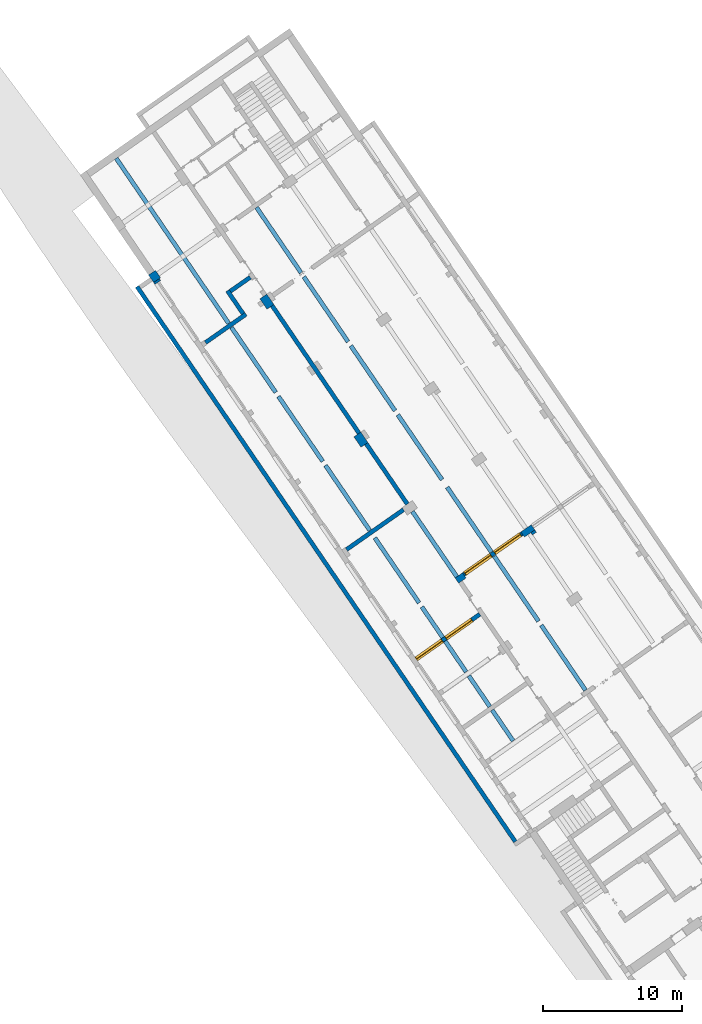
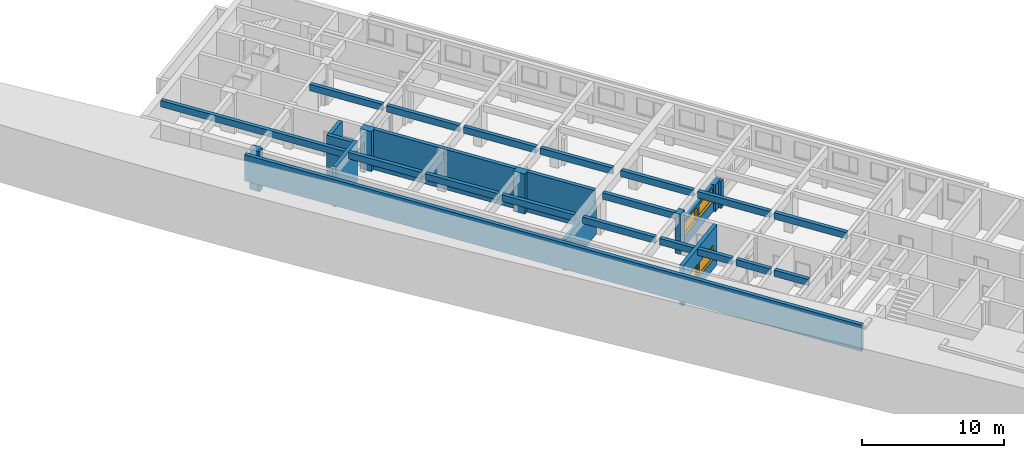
# One storey, part 61 of 112: 19 walls, 4 windows, 5 openings.
"""IFC2X3 building model written with IfcOpenShell, lengths in millimetres."""

from ifc_helpers import new_model, entity, si_unit, converted_unit, derived_unit, direction, frame, frame_2d, origin, place, context, subcontext, project, spatial, polyline, rectangle, outline, extrude, source, transform, mapped, material, material_list, layer, layer_set, layer_usage, type_object, type_shapes, element, fill, save


model = new_model("IFC2X3")

# Units and contexts
model_context = context("Model", 3, precision=0.01, world=origin(), true_north=direction((6.123031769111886e-17, 1.0)))
body_context = subcontext(model_context, "Body", "Model", "MODEL_VIEW")
ifc_project = project(units=[si_unit("LENGTHUNIT", "METRE", prefix="MILLI"), si_unit("AREAUNIT", "SQUARE_METRE"), si_unit("VOLUMEUNIT", "CUBIC_METRE"), converted_unit("PLANEANGLEUNIT", "DEGREE", entity("IfcRatioMeasure", 0.017453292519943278), si_unit("PLANEANGLEUNIT", "RADIAN"), dimensions=[0, 0, 0, 0, 0, 0, 0]), si_unit("MASSUNIT", "GRAM", prefix="KILO"), derived_unit("MASSDENSITYUNIT", [(si_unit("MASSUNIT", "GRAM", prefix="KILO"), 1), (si_unit("LENGTHUNIT", "METRE"), -3)]), derived_unit("MOMENTOFINERTIAUNIT", [(si_unit("LENGTHUNIT", "METRE"), 4)]), si_unit("TIMEUNIT", "SECOND"), si_unit("FREQUENCYUNIT", "HERTZ"), si_unit("THERMODYNAMICTEMPERATUREUNIT", "DEGREE_CELSIUS"), derived_unit("THERMALTRANSMITTANCEUNIT", [(si_unit("MASSUNIT", "GRAM", prefix="KILO"), 1), (si_unit("THERMODYNAMICTEMPERATUREUNIT", "KELVIN"), -1), (si_unit("TIMEUNIT", "SECOND"), -3)]), derived_unit("THERMALCONDUCTANCEUNIT", [(si_unit("MASSUNIT", "GRAM", prefix="KILO"), 1), (si_unit("LENGTHUNIT", "METRE"), 1), (si_unit("THERMODYNAMICTEMPERATUREUNIT", "KELVIN"), -1), (si_unit("TIMEUNIT", "SECOND"), -3)]), derived_unit("VOLUMETRICFLOWRATEUNIT", [(si_unit("LENGTHUNIT", "METRE"), 3), (si_unit("TIMEUNIT", "SECOND"), -1)]), derived_unit("MASSFLOWRATEUNIT", [(si_unit("MASSUNIT", "GRAM", prefix="KILO"), 1), (si_unit("TIMEUNIT", "SECOND"), -1)]), derived_unit("ROTATIONALFREQUENCYUNIT", [(si_unit("TIMEUNIT", "SECOND"), -1)]), si_unit("ELECTRICCURRENTUNIT", "AMPERE"), si_unit("ELECTRICVOLTAGEUNIT", "VOLT"), si_unit("POWERUNIT", "WATT"), converted_unit("FORCEUNIT", "KIP", entity("IfcRatioMeasure", 2.088543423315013e-05), si_unit("FORCEUNIT", "NEWTON"), dimensions=[1, 1, -2, 0, 0, 0, 0]), si_unit("ILLUMINANCEUNIT", "LUX"), si_unit("LUMINOUSFLUXUNIT", "LUMEN"), si_unit("LUMINOUSINTENSITYUNIT", "CANDELA"), derived_unit("USERDEFINED", [(si_unit("MASSUNIT", "GRAM", prefix="KILO"), -1), (si_unit("LENGTHUNIT", "METRE"), -2), (si_unit("TIMEUNIT", "SECOND"), 3), (si_unit("LUMINOUSFLUXUNIT", "LUMEN"), 1)]), derived_unit("USERDEFINED", [(si_unit("MASSUNIT", "GRAM", prefix="KILO"), 1), (si_unit("LENGTHUNIT", "METRE"), 3), (si_unit("TIMEUNIT", "SECOND"), -3), (si_unit("ELECTRICCURRENTUNIT", "AMPERE"), -2)]), derived_unit("USERDEFINED", [(si_unit("LENGTHUNIT", "METRE"), 2), (si_unit("TIMEUNIT", "SECOND"), -2)]), derived_unit("SOUNDPOWERUNIT", [(si_unit("MASSUNIT", "GRAM", prefix="KILO"), 1), (si_unit("LENGTHUNIT", "METRE"), 2), (si_unit("TIMEUNIT", "SECOND"), -3)]), derived_unit("SOUNDPRESSUREUNIT", [(si_unit("MASSUNIT", "GRAM", prefix="KILO"), 1), (si_unit("LENGTHUNIT", "METRE"), -1), (si_unit("TIMEUNIT", "SECOND"), -2)]), derived_unit("LINEARVELOCITYUNIT", [(si_unit("LENGTHUNIT", "METRE"), 1), (si_unit("TIMEUNIT", "SECOND"), -1)]), si_unit("PRESSUREUNIT", "PASCAL"), derived_unit("USERDEFINED", [(si_unit("LENGTHUNIT", "METRE"), -2), (si_unit("MASSUNIT", "GRAM", prefix="KILO"), 1), (si_unit("TIMEUNIT", "SECOND"), -2)]), derived_unit("LINEARFORCEUNIT", [(si_unit("MASSUNIT", "GRAM", prefix="KILO"), 1), (si_unit("LENGTHUNIT", "METRE"), 1), (si_unit("TIMEUNIT", "SECOND"), -2), (si_unit("LENGTHUNIT", "METRE"), -1)]), derived_unit("PLANARFORCEUNIT", [(si_unit("MASSUNIT", "GRAM", prefix="KILO"), 1), (si_unit("LENGTHUNIT", "METRE"), 1), (si_unit("TIMEUNIT", "SECOND"), -2), (si_unit("LENGTHUNIT", "METRE"), -2)]), derived_unit("SPECIFICHEATCAPACITYUNIT", [(si_unit("LENGTHUNIT", "METRE"), 2), (si_unit("TIMEUNIT", "SECOND"), -2), (si_unit("THERMODYNAMICTEMPERATUREUNIT", "KELVIN"), -1)]), derived_unit("VAPORPERMEABILITYUNIT", [(si_unit("TIMEUNIT", "SECOND"), 1), (si_unit("LENGTHUNIT", "METRE"), -1)]), derived_unit("DYNAMICVISCOSITYUNIT", [(si_unit("MASSUNIT", "GRAM", prefix="KILO"), 1), (si_unit("LENGTHUNIT", "METRE"), -1), (si_unit("TIMEUNIT", "SECOND"), -1)]), derived_unit("THERMALEXPANSIONCOEFFICIENTUNIT", [(si_unit("THERMODYNAMICTEMPERATUREUNIT", "KELVIN"), -1)])], contexts=[model_context])

# Site, building, storey
site_placement = place(None, frame((0.0, 0.0, 0.0), z_axis=(0.0, 0.0, 1.0), x_axis=(0.8191520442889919, 0.5735764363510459, 0.0)))
site = spatial("IfcSite", under=ifc_project, at=site_placement, Name="Default", CompositionType="ELEMENT")
building_placement = place(site_placement, origin())
building = spatial("IfcBuilding", under=site, at=building_placement, CompositionType="ELEMENT")
storey_placement = place(building_placement, frame((0.0, 0.0, -3600.0)))
storey = spatial("IfcBuildingStorey", under=building, at=storey_placement, Name="0.UG -3.60", CompositionType="ELEMENT", Elevation=-3600.0000000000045)

# Wall, openings, windows
ifc_material_1 = material(Name="Analytical Wall Surface_CJC")
ifc_layer_1 = layer(ifc_material_1, 300.0)
ifc_layer_set_1 = layer_set([ifc_layer_1], Name="Basic Wall:Wand_Innen_30")
ifc_layer_usage_1 = layer_usage(ifc_layer_set_1, "AXIS2", "NEGATIVE", 150.0)
wall_type_1 = type_object("IfcWallType", Name="Basic Wall:Wand_Innen_30", PredefinedType="STANDARD", material=ifc_layer_set_1)
wall_1_placement = place(storey_placement, frame((-216272.42140855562, 133696.3589143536, 0.0)))
wall_1 = element("IfcWallStandardCase", 1, at=wall_1_placement, inside=storey, type_object=wall_type_1, material=ifc_layer_usage_1, Name="Basic Wall:Wand_Innen_30", ObjectType="Basic Wall:Wand_Innen_30", context=body_context, shape_type="SweptSolid", body=[
    extrude(rectangle(XDim=5123.505691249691, YDim=300.0000000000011, at=frame_2d((2561.7528456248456, 1.9042545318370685e-12), x_axis=(-1.0, 0.0))), origin(), (0.0, 0.0, 1.0), 2300.0),
])
opening_1_placement = place(wall_1_placement, frame((2705.9354078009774, -150.0, 900.0)))
opening_1 = element("IfcOpeningElement", 2, at=opening_1_placement, cuts=wall_1, Name="M_Instance-Window-Fixed:508x270:1", ObjectType="Opening", context=body_context, shape_type="SweptSolid", body=[
    extrude(rectangle(XDim=1200.0, YDim=2300.0, at=frame_2d((600.0, 1150.0), x_axis=(-1.0, 0.0))), frame((0.0, 0.0, 0.0), z_axis=(0.0, 1.0, 0.0), x_axis=(0.0, 0.0, 1.0)), (0.0, 0.0, 1.0), 300.0),
])
opening_2_placement = place(wall_1_placement, frame((105.93540780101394, -150.0, 900.0)))
opening_2 = element("IfcOpeningElement", 3, at=opening_2_placement, cuts=wall_1, Name="M_Instance-Window-Fixed:508x270:1", ObjectType="Opening", context=body_context, shape_type="SweptSolid", body=[
    extrude(rectangle(XDim=1200.0, YDim=2300.0, at=frame_2d((600.0, 1150.0), x_axis=(-1.0, 0.0))), frame((0.0, 0.0, 0.0), z_axis=(0.0, 1.0, 0.0), x_axis=(0.0, 0.0, 1.0)), (0.0, 0.0, 1.0), 300.0),
])
ifc_material_2 = material(Name="Sash")
ifc_material_3 = material(Name="Glass")
ifc_material_4 = material(Name="<Unnamed>")
ifc_material_list = material_list([ifc_material_2, ifc_material_3, ifc_material_4])
window_style = type_object("IfcWindowStyle", Name="M_Instance-Window-Fixed:508x270", ConstructionType="NOTDEFINED", OperationType="NOTDEFINED", ParameterTakesPrecedence=False, Sizeable=False, material=ifc_material_list)
shared_shape = source(origin(), body_context, "Body", "SweptSolid", [
    extrude(rectangle(XDim=25.400000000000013, YDim=2300.0000000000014, at=frame_2d((1.687538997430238e-14, 0.0), x_axis=(1.0, 0.0))), frame((1150.0, 312.70000000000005, 0.0), z_axis=(0.0, 0.0, 1.0), x_axis=(0.0, -1.0, 0.0)), (0.0, 0.0, 1.0), 19.049999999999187),
    extrude(rectangle(XDim=12.699999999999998, YDim=2172.9999999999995, at=frame_2d((-4.440892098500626e-15, 0.0), x_axis=(1.0, 0.0))), frame((1150.0, 177.77500000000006, 63.49999999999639), z_axis=(0.0, 0.0, 1.0), x_axis=(0.0, 1.0, 0.0)), (0.0, 0.0, 1.0), 1073.0000000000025),
    extrude(outline(polyline([(-1130.9499999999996, -580.9500000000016), (1130.9499999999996, -580.9500000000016), (1130.9499999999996, 580.9500000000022), (-1130.9499999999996, 580.9500000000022), (-1130.9499999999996, -580.9500000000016)]), holes=[polyline([(-1086.4999999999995, -536.5000000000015), (-1086.4999999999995, 536.5000000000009), (1086.5, 536.5000000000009), (1086.5, -536.5000000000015), (-1086.4999999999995, -536.5000000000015)])]), frame((1150.0, 155.55000000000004, 600.0), z_axis=(0.0, 1.0, 0.0), x_axis=(1.0, 0.0, 0.0)), (0.0, 0.0, 1.0), 44.449999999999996),
    extrude(outline(polyline([(-1150.0, -600.0), (1150.0, -600.0), (1150.0, 600.0), (-1150.0, 600.0), (-1150.0, -600.0)]), holes=[polyline([(-1118.2500000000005, -568.2499999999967), (-1118.2500000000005, 568.2500000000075), (1118.249999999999, 568.2500000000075), (1118.249999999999, -568.2499999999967), (-1118.2500000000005, -568.2499999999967)])]), frame((1150.0, 0.0, 600.0), z_axis=(0.0, 1.0, 0.0), x_axis=(1.0, 0.0, 0.0)), (0.0, 0.0, 1.0), 155.55000000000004),
    extrude(outline(polyline([(-600.0, -1150.0), (600.0, -1150.0), (600.0, 1150.0), (-600.0, 1150.0), (-600.0, -1150.0)]), holes=[polyline([(-580.9499999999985, -1130.9499999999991), (-580.9499999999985, 1130.9500000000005), (580.9500000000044, 1130.9500000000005), (580.9500000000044, -1130.9499999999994), (-580.9499999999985, -1130.9499999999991)])]), frame((1150.0, 155.55000000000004, 600.0), z_axis=(0.0, 1.0, 0.0), x_axis=(0.0, 0.0, -1.0)), (0.0, 0.0, 1.0), 144.45),
])
type_shapes(window_style, [shared_shape])
window_1_placement = place(opening_1_placement, origin())
window_1 = element("IfcWindow", 4, at=window_1_placement, inside=storey, type_object=window_style, material=ifc_material_list, Name="M_Instance-Window-Fixed:508x270", ObjectType="M_Instance-Window-Fixed:508x270", OverallHeight=1200.0, OverallWidth=2299.999999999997, context=body_context, shape_type="MappedRepresentation", body=[
    mapped(shared_shape, transform((0.0, 0.0, 0.0), scale=1.0)),
])
fill(opening_1, window_1)
window_2_placement = place(opening_2_placement, origin())
window_2 = element("IfcWindow", 5, at=window_2_placement, inside=storey, type_object=window_style, material=ifc_material_list, Name="M_Instance-Window-Fixed:508x270", ObjectType="M_Instance-Window-Fixed:508x270", OverallHeight=1200.0, OverallWidth=2299.999999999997, context=body_context, shape_type="MappedRepresentation", body=[
    mapped(shared_shape, transform((0.0, 0.0, 0.0), scale=1.0)),
])
fill(opening_2, window_2)

# Walls
ifc_layer_usage_2 = layer_usage(ifc_layer_set_1, "AXIS2", "POSITIVE", -150.0)
wall_2_placement = place(storey_placement, frame((-216686.23628759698, 140169.44947620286, 0.0), z_axis=(0.0, 0.0, 1.0), x_axis=(0.012729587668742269, 0.9999189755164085, 0.0)))
element("IfcWallStandardCase", 6, at=wall_2_placement, inside=storey, type_object=wall_type_1, material=ifc_layer_usage_2, Name="Basic Wall:Wand_Innen_30", ObjectType="Basic Wall:Wand_Innen_30", context=body_context, shape_type="SweptSolid", body=[
    extrude(outline(polyline([(5254.182672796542, -150.0), (5254.182672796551, 150.0), (0.0, 150.0), (3.819185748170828, -150.0), (5254.182672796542, -150.0)])), origin(), (0.0, 0.0, 1.0), 3450.0),
])
wall_3_placement = place(storey_placement, frame((-216608.01906584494, 146323.20313622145, 0.0), z_axis=(0.0, 0.0, 1.0), x_axis=(0.012740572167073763, 0.9999188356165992, 0.0)))
element("IfcWallStandardCase", 7, at=wall_3_placement, inside=storey, type_object=wall_type_1, material=ifc_layer_usage_2, Name="Basic Wall:Wand_Innen_30", ObjectType="Basic Wall:Wand_Innen_30", context=body_context, shape_type="SweptSolid", body=[
    extrude(rectangle(XDim=11100.965209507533, YDim=300.0000000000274, at=frame_2d((5550.482604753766, -3.140598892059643e-12), x_axis=(-1.0, 0.0))), origin(), (0.0, 0.0, 1.0), 3450.000000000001),
])
wall_4_placement = place(storey_placement, frame((-221907.86051160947, 157996.35891435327, 0.0)))
element("IfcWallStandardCase", 8, at=wall_4_placement, inside=storey, type_object=wall_type_1, material=ifc_layer_usage_1, Name="Basic Wall:Wand_Innen_30", ObjectType="Basic Wall:Wand_Innen_30", context=body_context, shape_type="SweptSolid", body=[
    extrude(outline(polyline([(3546.5082670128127, -150.0), (3550.3274527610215, 150.0), (3250.3031434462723, 150.0), (0.0, 150.0), (0.0, -150.0), (3546.5082670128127, -150.0)])), origin(), (0.0, 0.0, 1.0), 3450.0),
])
wall_5_placement = place(storey_placement, frame((-218507.56952183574, 158144.44947620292, 0.0), z_axis=(0.0, 0.0, 1.0), x_axis=(0.012729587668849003, 0.9999189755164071, 0.0)))
element("IfcWallStandardCase", 9, at=wall_5_placement, inside=storey, type_object=wall_type_1, material=ifc_layer_usage_1, Name="Basic Wall:Wand_Innen_30", ObjectType="Basic Wall:Wand_Innen_30", context=body_context, shape_type="SweptSolid", body=[
    extrude(outline(polyline([(2003.9812478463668, -150.0), (2000.162062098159, 150.0), (0.0, 150.0), (3.8191857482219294, -150.0), (1703.9569385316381, -150.0), (2003.9812478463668, -150.0)])), origin(), (0.0, 0.0, 1.0), 3450.000000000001),
])
wall_6_placement = place(storey_placement, frame((-218335.89100627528, 159996.35891435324, 0.0)))
element("IfcWallStandardCase", 10, at=wall_6_placement, inside=storey, type_object=wall_type_1, material=ifc_layer_usage_1, Name="Basic Wall:Wand_Innen_30", ObjectType="Basic Wall:Wand_Innen_30", context=body_context, shape_type="SweptSolid", body=[
    extrude(outline(polyline([(1750.1418043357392, -150.0), (1753.9609900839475, 150.0), (3.8191857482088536, 150.0), (0.0, -150.0), (1750.1418043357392, -150.0)])), origin(), (0.0, 0.0, 1.0), 3450.0),
])

# Wall, openings, windows
wall_7_placement = place(storey_placement, frame((-216954.93715759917, 130696.35891435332, 0.0), z_axis=(0.0, 0.0, 1.0), x_axis=(-1.0, 0.0, 0.0)))
wall_7 = element("IfcWallStandardCase", 11, at=wall_7_placement, inside=storey, type_object=wall_type_1, material=ifc_layer_usage_1, Name="Basic Wall:Wand_Innen_30", ObjectType="Basic Wall:Wand_Innen_30", context=body_context, shape_type="SweptSolid", body=[
    extrude(outline(polyline([(5600.392310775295, -150.0), (5604.211496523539, 150.0), (3.819185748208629, 150.0), (0.0, -150.0), (5600.392310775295, -150.0)])), origin(), (0.0, 0.0, 1.0), 3450.000000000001),
])
opening_3_placement = place(wall_7_placement, frame((3300.392310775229, -150.0, 900.0)))
opening_3 = element("IfcOpeningElement", 12, at=opening_3_placement, cuts=wall_7, Name="M_Instance-Window-Fixed:508x270:1", ObjectType="Opening", context=body_context, shape_type="SweptSolid", body=[
    extrude(rectangle(XDim=1200.0, YDim=2300.0, at=frame_2d((600.0, 1150.0), x_axis=(-1.0, 0.0))), frame((0.0, 0.0, 0.0), z_axis=(0.0, 1.0, 0.0), x_axis=(0.0, 0.0, 1.0)), (0.0, 0.0, 1.0), 300.0),
])
opening_4_placement = place(wall_7_placement, frame((700.4300532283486, -150.0, 900.0)))
opening_4 = element("IfcOpeningElement", 13, at=opening_4_placement, cuts=wall_7, Name="M_Instance-Window-Fixed:508x270:1", ObjectType="Opening", context=body_context, shape_type="SweptSolid", body=[
    extrude(rectangle(XDim=1200.0, YDim=2300.0, at=frame_2d((600.0, 1150.0), x_axis=(-1.0, 0.0))), frame((0.0, 0.0, 0.0), z_axis=(0.0, 1.0, 0.0), x_axis=(0.0, 0.0, 1.0)), (0.0, 0.0, 1.0), 300.0),
])
window_3_placement = place(opening_4_placement, origin())
window_3 = element("IfcWindow", 14, at=window_3_placement, inside=storey, type_object=window_style, material=ifc_material_list, Name="M_Instance-Window-Fixed:508x270", ObjectType="M_Instance-Window-Fixed:508x270", OverallHeight=1200.0, OverallWidth=2299.999999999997, context=body_context, shape_type="MappedRepresentation", body=[
    mapped(shared_shape, transform((0.0, 0.0, 0.0), scale=1.0)),
])
fill(opening_4, window_3)
window_4_placement = place(opening_3_placement, origin())
window_4 = element("IfcWindow", 15, at=window_4_placement, inside=storey, type_object=window_style, material=ifc_material_list, Name="M_Instance-Window-Fixed:508x270", ObjectType="M_Instance-Window-Fixed:508x270", OverallHeight=1200.0, OverallWidth=2299.999999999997, context=body_context, shape_type="MappedRepresentation", body=[
    mapped(shared_shape, transform((0.0, 0.0, 0.0), scale=1.0)),
])
fill(opening_3, window_4)

# Walls
wall_8_placement = place(storey_placement, frame((-217144.45041774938, 139996.35891435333, 0.0), z_axis=(0.0, 0.0, 1.0), x_axis=(-1.0, 0.0, 0.0)))
element("IfcWallStandardCase", 16, at=wall_8_placement, inside=storey, type_object=wall_type_1, material=ifc_layer_usage_2, Name="Basic Wall:Wand_Innen_30", ObjectType="Basic Wall:Wand_Innen_30", context=body_context, shape_type="SweptSolid", body=[
    extrude(rectangle(XDim=4996.379121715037, YDim=300.00000000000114, at=frame_2d((2498.1895608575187, 2.7853275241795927e-12), x_axis=(-1.0, 0.0))), origin(), (0.0, 0.0, 1.0), 2700.0),
])
wall_9_placement = place(storey_placement, frame((-220215.84120636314, 121869.44947620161, 2900.0), z_axis=(0.0, 0.0, 1.0), x_axis=(0.012729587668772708, 0.9999189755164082, 0.0)))
element("IfcWall", 17, at=wall_9_placement, inside=storey, type_object=wall_type_1, Name="Basic Wall:Wand_Innen_30", ObjectType="Basic Wall:Wand_Innen_30", context=body_context, shape_type="SweptSolid", body=[
    extrude(outline(polyline([(-1335.6987861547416, -150.0), (1339.5179719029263, -150.0), (1335.6987861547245, 150.0), (-1339.5179719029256, 150.0), (-1335.6987861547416, -150.0)])), frame((1339.517971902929, 0.0, 0.0), z_axis=(0.0, 0.0, 1.0), x_axis=(-1.0, 0.0, 0.0)), (0.0, 0.0, 1.0), 550.0),
    extrude(outline(polyline([(-6590.291203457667, -150.0), (-2689.975182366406, -150.0), (-2339.9468214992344, -150.0), (1760.3854058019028, -150.0), (2110.4137666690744, -150.0), (7760.871592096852, -150.0), (7757.052406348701, 150.0), (2106.5945809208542, 150.0), (1756.5662200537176, 150.0), (-2343.76600724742, 150.0), (-2693.7943681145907, 150.0), (-6594.110389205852, 150.0), (-6590.291203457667, -150.0)])), frame((44063.813019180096, 0.0, 0.0), z_axis=(0.0, 0.0, 1.0), x_axis=(-1.0, 0.0, 0.0)), (0.0, 0.0, 1.0), 550.0),
    extrude(outline(polyline([(-1335.698786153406, -150.0), (1339.5179719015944, -150.0), (1335.698786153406, 150.0), (-1339.5179719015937, 150.0), (-1335.698786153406, -150.0)])), frame((4314.759039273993, 0.0, 0.0)), (0.0, 0.0, 1.0), 550.0),
    extrude(outline(polyline([(-2823.3193198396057, -150.0), (2827.1385055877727, -150.0), (2823.319319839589, 150.0), (-2827.13850558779, 150.0), (-2823.3193198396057, -150.0)])), frame((27129.107560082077, 0.0, 0.0)), (0.0, 0.0, 1.0), 549.9999999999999),
    extrude(outline(polyline([(-2823.319319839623, -150.0), (2827.1385055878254, -150.0), (2823.31931983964, 150.0), (-2827.138505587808, 150.0), (-2823.319319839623, -150.0)])), frame((21128.621373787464, 0.0, 0.0), z_axis=(0.0, 0.0, 1.0), x_axis=(-1.0, 0.0, 0.0)), (0.0, 0.0, 1.0), 550.0),
    extrude(outline(polyline([(-2823.319319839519, -150.0), (2827.1385055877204, -150.0), (2823.3193198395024, 150.0), (-2827.138505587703, 150.0), (-2823.319319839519, -150.0)])), frame((33129.593746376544, 0.0, 0.0)), (0.0, 0.0, 1.0), 549.9999999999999),
    extrude(outline(polyline([(-1335.6987861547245, -150.0), (1339.5179719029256, -150.0), (1335.6987861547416, 150.0), (-1339.517971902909, 150.0), (-1335.6987861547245, -150.0)])), frame((7340.004158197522, 0.0, 0.0), z_axis=(0.0, 0.0, 1.0), x_axis=(-1.0, 0.0, 0.0)), (0.0, 0.0, 1.0), 550.0),
    extrude(outline(polyline([(-2823.31931984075, -150.0), (2827.138505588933, -150.0), (2823.31931984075, 150.0), (-2827.1385055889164, 150.0), (-2823.31931984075, -150.0)])), frame((14828.11087817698, 0.0, 0.0)), (0.0, 0.0, 1.0), 550.0),
    extrude(outline(polyline([(-1335.6987861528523, -150.0), (1339.5179719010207, -150.0), (1335.6987861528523, 150.0), (-1339.517971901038, 150.0), (-1335.6987861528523, -150.0)])), frame((10315.245225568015, 0.0, 0.0)), (0.0, 0.0, 1.0), 550.0),
])
wall_10_placement = place(storey_placement, frame((-213868.94731887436, 121869.44947620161, 2900.0), z_axis=(0.0, 0.0, 1.0), x_axis=(0.012729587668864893, 0.999918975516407, 0.0)))
element("IfcWall", 18, at=wall_10_placement, inside=storey, type_object=wall_type_1, Name="Basic Wall:Wand_Innen_30", ObjectType="Basic Wall:Wand_Innen_30", context=body_context, shape_type="SweptSolid", body=[
    extrude(outline(polyline([(-2823.319319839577, -150.0), (2827.1385055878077, -150.0), (2823.3193198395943, 150.0), (-2827.1385055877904, 150.0), (-2823.319319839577, -150.0)])), frame((2827.138505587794, 0.0, 0.0)), (0.0, 0.0, 1.0), 550.0),
    extrude(outline(polyline([(-2835.820332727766, -150.0), (2839.6395184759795, -150.0), (2835.820332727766, 150.0), (-2839.639518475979, 150.0), (-2835.820332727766, -150.0)])), frame((39142.580945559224, 0.0, 0.0), z_axis=(0.0, 0.0, 1.0), x_axis=(-1.0, 0.0, 0.0)), (0.0, 0.0, 1.0), 550.0),
    extrude(outline(polyline([(-2823.319319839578, -150.0), (2827.138505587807, -150.0), (2823.319319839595, 150.0), (-2827.13850558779, 150.0), (-2823.319319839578, -150.0)])), frame((27129.10756008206, 0.0, 0.0)), (0.0, 0.0, 1.0), 550.0),
    extrude(outline(polyline([(-2823.3193198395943, -150.0), (2827.1385055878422, -150.0), (2823.319319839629, 150.0), (-2827.138505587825, 150.0), (-2823.3193198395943, -150.0)])), frame((21128.621373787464, 0.0, 0.0), z_axis=(0.0, 0.0, 1.0), x_axis=(-1.0, 0.0, 0.0)), (0.0, 0.0, 1.0), 550.0),
    extrude(outline(polyline([(-2823.319319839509, -150.0), (2827.1385055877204, -150.0), (2823.319319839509, 150.0), (-2827.1385055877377, 150.0), (-2823.319319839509, -150.0)])), frame((33129.593746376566, 0.0, 0.0)), (0.0, 0.0, 1.0), 550.0),
    extrude(outline(polyline([(-2823.319319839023, -150.0), (2827.138505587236, -150.0), (2823.319319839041, 150.0), (-2827.138505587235, 150.0), (-2823.319319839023, -150.0)])), frame((8827.624691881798, 0.0, 0.0)), (0.0, 0.0, 1.0), 550.0),
    extrude(outline(polyline([(-2823.319319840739, -150.0), (2827.138505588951, -150.0), (2823.319319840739, 150.0), (-2827.138505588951, 150.0), (-2823.319319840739, -150.0)])), frame((14828.110878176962, 0.0, 0.0)), (0.0, 0.0, 1.0), 549.9999999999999),
])
wall_11_placement = place(storey_placement, frame((-216766.75745378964, 133844.44947620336, 2900.0), z_axis=(0.0, 0.0, 1.0), x_axis=(0.012729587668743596, 0.9999189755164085, 0.0)))
element("IfcWallStandardCase", 19, at=wall_11_placement, inside=storey, type_object=wall_type_1, material=ifc_layer_usage_1, Name="Basic Wall:Wand_Innen_30", ObjectType="Basic Wall:Wand_Innen_30", context=body_context, shape_type="SweptSolid", body=[
    extrude(outline(polyline([(5679.279036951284, -150.0), (5675.459851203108, 150.0), (0.0, 150.0), (0.0, -150.0), (5679.279036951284, -150.0)])), origin(), (0.0, 0.0, 1.0), 550.0),
])
ifc_layer_2 = layer(ifc_material_1, 350.0)
ifc_layer_set_2 = layer_set([ifc_layer_2], Name="Basic Wall:Wand_Innen_35")
ifc_layer_usage_3 = layer_usage(ifc_layer_set_2, "AXIS2", "NEGATIVE", 175.0)
wall_type_2 = type_object("IfcWallType", Name="Basic Wall:Wand_Innen_35", PredefinedType="STANDARD", material=ifc_layer_set_2)
wall_12_placement = place(storey_placement, frame((-210426.41727406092, 133196.35891435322, 0.0), z_axis=(0.0, 0.0, 1.0), x_axis=(0.0, 1.0, 0.0)))
element("IfcWallStandardCase", 20, at=wall_12_placement, inside=storey, type_object=wall_type_2, material=ifc_layer_usage_3, Name="Basic Wall:Wand_Innen_35", ObjectType="Basic Wall:Wand_Innen_35", context=body_context, shape_type="SweptSolid", body=[
    extrude(rectangle(XDim=200.00000000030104, YDim=350.0000000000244, at=frame_2d((100.00000000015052, 1.1368683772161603e-13), x_axis=(-1.0, 0.0))), origin(), (0.0, 0.0, 1.0), 2300.0),
])
ifc_layer_3 = layer(ifc_material_1, 450.00000000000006)
ifc_layer_set_3 = layer_set([ifc_layer_3], Name="Basic Wall:Wand_Innen_45")
ifc_layer_usage_4 = layer_usage(ifc_layer_set_3, "AXIS2", "POSITIVE", -225.00000000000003)
wall_type_3 = type_object("IfcWallType", Name="Basic Wall:Wand_Innen_45", PredefinedType="STANDARD", material=ifc_layer_set_3)
wall_13_placement = place(storey_placement, frame((-216272.42140855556, 133621.35891435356, 0.0), z_axis=(0.0, 0.0, 1.0), x_axis=(-1.0, 0.0, 0.0)))
element("IfcWallStandardCase", 21, at=wall_13_placement, inside=storey, type_object=wall_type_3, material=ifc_layer_usage_4, Name="Basic Wall:Wand_Innen_45", ObjectType="Basic Wall:Wand_Innen_45", context=body_context, shape_type="SweptSolid", body=[
    extrude(outline(polyline([(644.3238915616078, -225.0), (650.0526701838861, 225.0), (350.02836086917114, 225.0), (0.0, 225.0), (0.0, 75.0), (0.0, -225.0), (644.3238915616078, -225.0)])), origin(), (0.0, 0.0, 1.0), 3450.0),
])

# Wall, opening
ifc_layer_usage_5 = layer_usage(ifc_layer_set_3, "AXIS2", "NEGATIVE", 225.00000000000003)
wall_14_placement = place(storey_placement, frame((-211148.91571730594, 133621.35891435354, 0.0)))
wall_14 = element("IfcWallStandardCase", 22, at=wall_14_placement, inside=storey, type_object=wall_type_3, material=ifc_layer_usage_5, Name="Basic Wall:Wand_Innen_45", ObjectType="Basic Wall:Wand_Innen_45", context=body_context, shape_type="SweptSolid", body=[
    extrude(rectangle(XDim=901.9825208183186, YDim=450.00000000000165, at=frame_2d((450.9912604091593, -6.80699940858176e-12), x_axis=(-1.0, 0.0))), origin(), (0.0, 0.0, 1.0), 2300.0),
])
opening_5_placement = place(wall_14_placement, origin())
element("IfcOpeningElement", 23, at=opening_5_placement, cuts=wall_14, Name="Basic Wall:Wand_Innen_45", ObjectType="Opening", context=body_context, shape_type="SweptSolid", body=[
    extrude(rectangle(XDim=1200.0, YDim=2299.999999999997, at=frame_2d((0.0, -1.7280399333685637e-11), x_axis=(1.0, 0.0))), frame((2051.9825208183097, -1599.0, 1500.0), z_axis=(0.0, 1.0, 0.0), x_axis=(0.0, 0.0, -1.0)), (0.0, 0.0, 1.0), 3048.0),
])

# Walls
ifc_layer_4 = layer(ifc_material_1, 500.00000000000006)
ifc_layer_set_4 = layer_set([ifc_layer_4], Name="Basic Wall:Wand_Aussen_50")
ifc_layer_usage_6 = layer_usage(ifc_layer_set_4, "AXIS2", "NEGATIVE", 250.00000000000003)
wall_type_4 = type_object("IfcWallType", Name="Basic Wall:Wand_Aussen_50", PredefinedType="STANDARD", material=ifc_layer_set_4)
wall_15_placement = place(storey_placement, frame((-222239.59460220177, 163503.291946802, 0.0), z_axis=(0.0, 0.0, 1.0), x_axis=(0.012400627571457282, 0.9999231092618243, 0.0)))
element("IfcWallStandardCase", 24, at=wall_15_placement, inside=storey, type_object=wall_type_4, material=ifc_layer_usage_6, Name="Basic Wall:Wand_Aussen_50", ObjectType="Basic Wall:Wand_Aussen_50", context=body_context, shape_type="SweptSolid", body=[
    extrude(rectangle(XDim=164.95046785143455, YDim=499.99999999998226, at=frame_2d((82.47523392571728, -1.4864554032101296e-11), x_axis=(-1.0, 0.0))), origin(), (0.0, 0.0, 1.0), 3450.0),
])
ifc_layer_5 = layer(ifc_material_1, 600.0)
ifc_layer_set_5 = layer_set([ifc_layer_5], Name="Basic Wall:Wand_Innen_60")
ifc_layer_usage_7 = layer_usage(ifc_layer_set_5, "AXIS2", "POSITIVE", -300.0)
wall_type_5 = type_object("IfcWallType", Name="Basic Wall:Wand_Innen_60", PredefinedType="STANDARD", material=ifc_layer_set_5)
wall_16_placement = place(storey_placement, frame((-216769.34054928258, 145425.1158696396, 0.0), z_axis=(0.0, 0.0, 1.0), x_axis=(0.012591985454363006, 0.9999207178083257, 0.0)))
element("IfcWallStandardCase", 25, at=wall_16_placement, inside=storey, type_object=wall_type_5, material=ifc_layer_usage_7, Name="Basic Wall:Wand_Innen_60", ObjectType="Basic Wall:Wand_Innen_60", context=body_context, shape_type="SweptSolid", body=[
    extrude(rectangle(XDim=900.0697118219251, YDim=599.9999999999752, at=frame_2d((450.03485591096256, 9.180212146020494e-12), x_axis=(-1.0, 0.0))), origin(), (0.0, 0.0, 1.0), 3450.0),
])
wall_17_placement = place(storey_placement, frame((-216616.57425971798, 157425.17709983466, 0.0), z_axis=(0.0, 0.0, 1.0), x_axis=(0.012731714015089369, 0.9999189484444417, 0.0)))
element("IfcWallStandardCase", 26, at=wall_17_placement, inside=storey, type_object=wall_type_5, material=ifc_layer_usage_7, Name="Basic Wall:Wand_Innen_60", ObjectType="Basic Wall:Wand_Innen_60", context=body_context, shape_type="SweptSolid", body=[
    extrude(rectangle(XDim=900.0746001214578, YDim=599.9999999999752, at=frame_2d((450.0373000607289, 9.379164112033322e-13), x_axis=(-1.0, 0.0))), origin(), (0.0, 0.0, 1.0), 3450.000000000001),
])
ifc_layer_usage_8 = layer_usage(ifc_layer_set_5, "AXIS2", "NEGATIVE", 300.0)
wall_18_placement = place(storey_placement, frame((-222187.55295057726, 163667.60970002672, 0.0), z_axis=(0.0, 0.0, 1.0), x_axis=(0.012718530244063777, 0.9999191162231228, 0.0)))
element("IfcWallStandardCase", 27, at=wall_18_placement, inside=storey, type_object=wall_type_5, material=ifc_layer_usage_8, Name="Basic Wall:Wand_Innen_60", ObjectType="Basic Wall:Wand_Innen_60", context=body_context, shape_type="SweptSolid", body=[
    extrude(rectangle(XDim=649.9840169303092, YDim=599.9999999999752, at=frame_2d((324.9920084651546, -3.694822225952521e-13), x_axis=(-1.0, 0.0))), origin(), (0.0, 0.0, 1.0), 3450.0),
])
ifc_layer_6 = layer(ifc_material_1, 300.0)
ifc_layer_set_6 = layer_set([ifc_layer_6], Name="Basic Wall:Wand_Aussen_30")
ifc_layer_usage_9 = layer_usage(ifc_layer_set_6, "AXIS2", "NEGATIVE", 150.0)
wall_type_6 = type_object("IfcWallType", Name="Basic Wall:Wand_Aussen_30", PredefinedType="STANDARD", material=ifc_layer_set_6)
wall_19_placement = place(storey_placement, frame((-224246.49607378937, 115844.44947620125, 1600.0), z_axis=(0.0, 0.0, 1.0), x_axis=(0.012729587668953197, 0.9999189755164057, 0.0)))
element("IfcWallStandardCase", 28, at=wall_19_placement, inside=storey, type_object=wall_type_6, material=ifc_layer_usage_9, Name="Basic Wall:Wand_Aussen_30", ObjectType="Basic Wall:Wand_Aussen_30", context=body_context, shape_type="SweptSolid", body=[
    extrude(outline(polyline([(48273.248907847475, -150.0), (48269.42972209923, 150.0), (0.0, 150.0), (3.8191857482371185, -150.0), (47973.224598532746, -150.0), (48273.248907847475, -150.0)])), origin(), (0.0, 0.0, 1.0), 2250.0),
])

save(model, "model.ifc")
